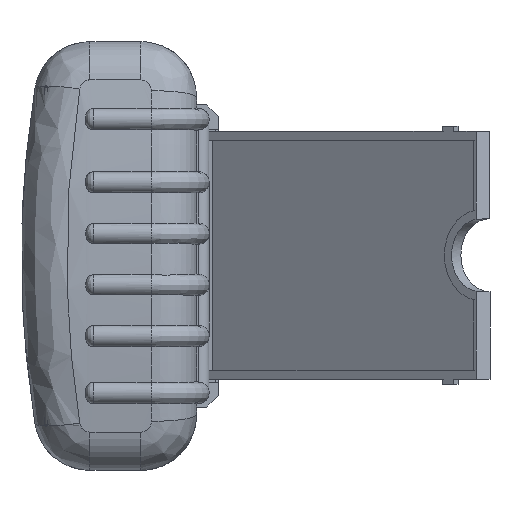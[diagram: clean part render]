
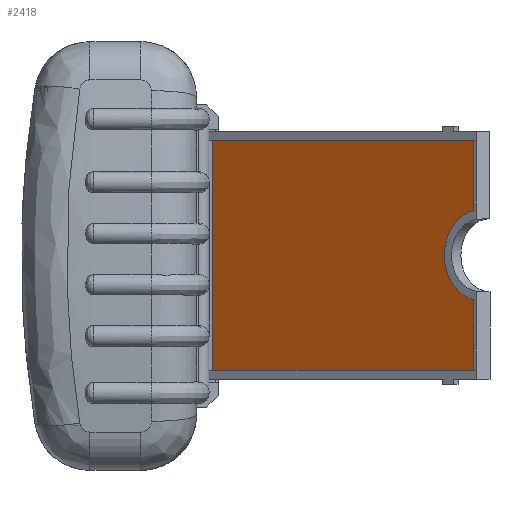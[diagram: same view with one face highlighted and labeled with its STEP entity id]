
A CAD part, left-side view. The second image highlights one B-rep face of the part: STEP entity #2418.
In plain terms, the highlighted planar face has unit normal (-0.797, 0.604, 0) as drawn and (0, -1, 0) by its records, which use the part's own axes.
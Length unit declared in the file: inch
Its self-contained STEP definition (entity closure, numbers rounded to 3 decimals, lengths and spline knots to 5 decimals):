
#170 = DIRECTION ( 'NONE',  ( -1., 0., 0. ) ) ;
#254 = EDGE_CURVE ( 'NONE', #9088, #3455, #12575, .T. ) ;
#601 = VERTEX_POINT ( 'NONE', #8864 ) ;
#1058 = CARTESIAN_POINT ( 'NONE',  ( 1.46516, -0.081, 0.8985 ) ) ;
#1067 = CIRCLE ( 'NONE', #6977, 0.355 ) ;
#1096 = DIRECTION ( 'NONE',  ( -1., 0., 0. ) ) ;
#1211 = VERTEX_POINT ( 'NONE', #3339 ) ;
#1721 = VECTOR ( 'NONE', #13496, 39.37008 ) ;
#2048 = CARTESIAN_POINT ( 'NONE',  ( -1.27, -0.081, -0.34803 ) ) ;
#2351 = VECTOR ( 'NONE', #13949, 39.37008 ) ;
#2418 = ADVANCED_FACE ( 'NONE', ( #15884 ), #14540, .F. ) ;
#2824 = ORIENTED_EDGE ( 'NONE', *, *, #4571, .F. ) ;
#3039 = DIRECTION ( 'NONE',  ( 0., -1., 0. ) ) ;
#3339 = CARTESIAN_POINT ( 'NONE',  ( -1.27, -0.081, 0.34803 ) ) ;
#3455 = VERTEX_POINT ( 'NONE', #6650 ) ;
#4109 = CARTESIAN_POINT ( 'NONE',  ( 1.46516, -0.081, -0.8985 ) ) ;
#4190 = EDGE_CURVE ( 'NONE', #601, #12962, #11899, .T. ) ;
#4275 = EDGE_CURVE ( 'NONE', #12962, #4891, #10693, .T. ) ;
#4571 = EDGE_CURVE ( 'NONE', #4891, #1211, #1067, .T. ) ;
#4891 = VERTEX_POINT ( 'NONE', #11926 ) ;
#4917 = ORIENTED_EDGE ( 'NONE', *, *, #254, .T. ) ;
#5103 = CARTESIAN_POINT ( 'NONE',  ( 1.31677, -0.081, 0.9685 ) ) ;
#5533 = EDGE_CURVE ( 'NONE', #9088, #601, #15850, .T. ) ;
#5842 = VECTOR ( 'NONE', #1096, 39.37008 ) ;
#6230 = EDGE_LOOP ( 'NONE', ( #15760, #11513, #14512, #4917, #13933, #2824 ) ) ;
#6650 = CARTESIAN_POINT ( 'NONE',  ( -1.27, -0.081, 0.8985 ) ) ;
#6977 = AXIS2_PLACEMENT_3D ( 'NONE', #10601, #3039, #11896 ) ;
#8279 = DIRECTION ( 'NONE',  ( 0., 0., 1. ) ) ;
#8864 = CARTESIAN_POINT ( 'NONE',  ( 1.31677, -0.081, -0.8985 ) ) ;
#9088 = VERTEX_POINT ( 'NONE', #14961 ) ;
#9346 = AXIS2_PLACEMENT_3D ( 'NONE', #13205, #9547, #8279 ) ;
#9547 = DIRECTION ( 'NONE',  ( 0., 1., 0. ) ) ;
#9585 = CARTESIAN_POINT ( 'NONE',  ( -1.27, -0.081, -0.8985 ) ) ;
#10435 = LINE ( 'NONE', #10775, #13011 ) ;
#10601 = CARTESIAN_POINT ( 'NONE',  ( -1.34, -0.081, 0. ) ) ;
#10693 = LINE ( 'NONE', #2048, #1721 ) ;
#10775 = CARTESIAN_POINT ( 'NONE',  ( -1.27, -0.081, 0.8985 ) ) ;
#10899 = EDGE_CURVE ( 'NONE', #1211, #3455, #10435, .T. ) ;
#11513 = ORIENTED_EDGE ( 'NONE', *, *, #4190, .F. ) ;
#11896 = DIRECTION ( 'NONE',  ( 0., 0., -1. ) ) ;
#11899 = LINE ( 'NONE', #4109, #14871 ) ;
#11926 = CARTESIAN_POINT ( 'NONE',  ( -1.27, -0.081, -0.34803 ) ) ;
#12575 = LINE ( 'NONE', #1058, #5842 ) ;
#12962 = VERTEX_POINT ( 'NONE', #9585 ) ;
#13011 = VECTOR ( 'NONE', #15925, 39.37008 ) ;
#13205 = CARTESIAN_POINT ( 'NONE',  ( -1.34, -0.081, 0.9685 ) ) ;
#13496 = DIRECTION ( 'NONE',  ( 0., 0., 1. ) ) ;
#13933 = ORIENTED_EDGE ( 'NONE', *, *, #10899, .F. ) ;
#13949 = DIRECTION ( 'NONE',  ( 0., 0., -1. ) ) ;
#14512 = ORIENTED_EDGE ( 'NONE', *, *, #5533, .F. ) ;
#14540 = PLANE ( 'NONE',  #9346 ) ;
#14871 = VECTOR ( 'NONE', #170, 39.37008 ) ;
#14961 = CARTESIAN_POINT ( 'NONE',  ( 1.31677, -0.081, 0.8985 ) ) ;
#15760 = ORIENTED_EDGE ( 'NONE', *, *, #4275, .F. ) ;
#15850 = LINE ( 'NONE', #5103, #2351 ) ;
#15884 = FACE_OUTER_BOUND ( 'NONE', #6230, .T. ) ;
#15925 = DIRECTION ( 'NONE',  ( 0., 0., 1. ) ) ;
